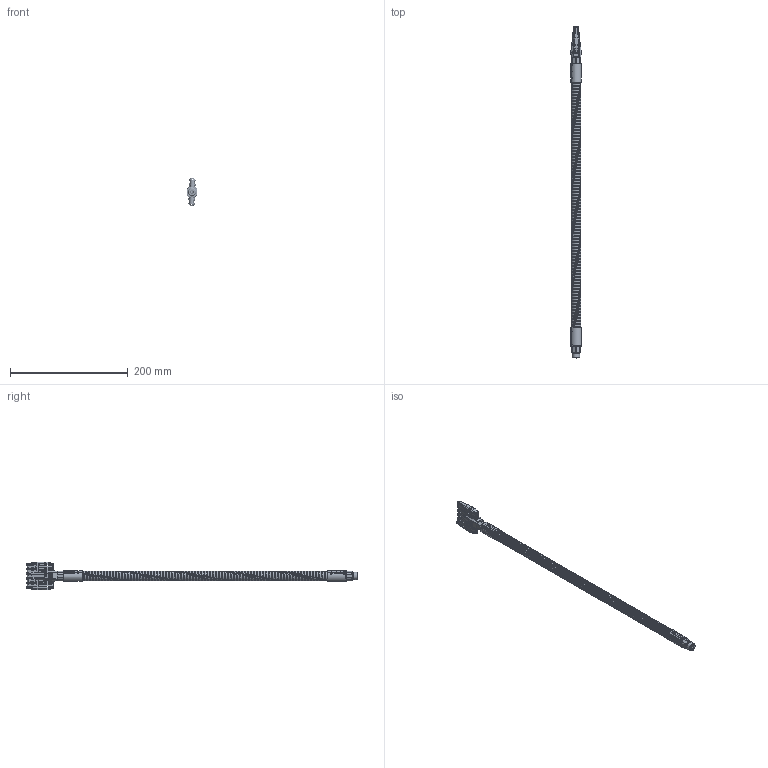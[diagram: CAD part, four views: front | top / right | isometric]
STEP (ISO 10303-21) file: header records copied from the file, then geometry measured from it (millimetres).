
FILE_DESCRIPTION (( 'STEP AP203' ), '1' );
FILE_NAME ('9002W-S-500.STEP', '2019-09-10T06:04:44', ( '' ), ( '' ), 'SwSTEP 2.0', 'SolidWorks 2016', '' );
FILE_SCHEMA (( 'CONFIG_CONTROL_DESIGN' ));
Products named in the file (1): 9002W-S-500
Bounding box: 18.48 x 564.15 x 47.39 mm (x, y, z)
Surface area: 53954.6 mm2 (no closed solid volume)
Topology: 0 solids, 21 shells, 598 faces, 3730 edges, 3098 vertices
Faces by surface type: cylinder 289, plane 215, bspline 80, torus 8, cone 6
Entity records: 81832 total; most frequent: CARTESIAN_POINT 58706, ORIENTED_EDGE 5813, EDGE_CURVE 3730, VERTEX_POINT 3098, DIRECTION 2721, B_SPLINE_CURVE_WITH_KNOTS 1914, VECTOR 1143, LINE 1143
